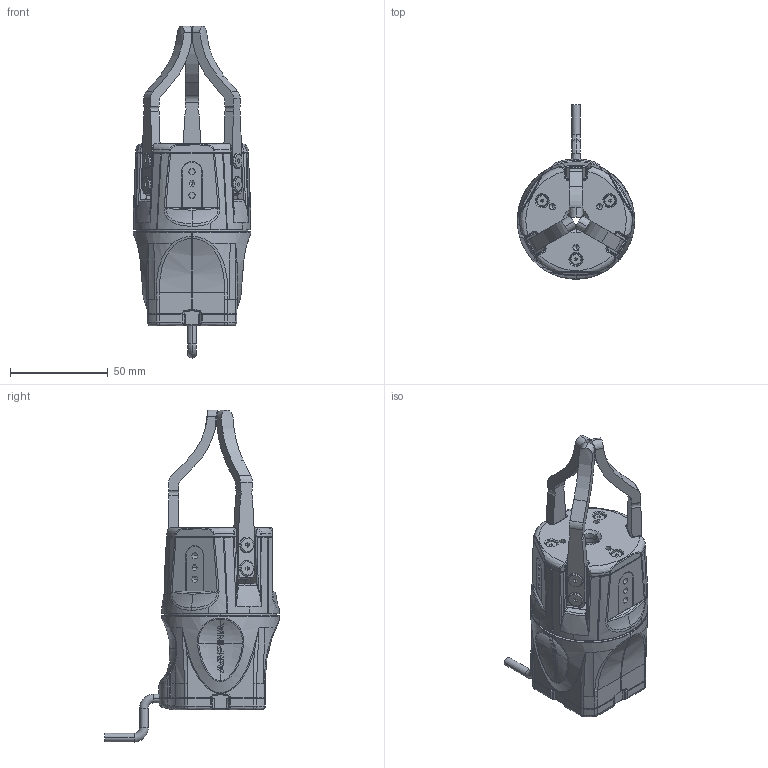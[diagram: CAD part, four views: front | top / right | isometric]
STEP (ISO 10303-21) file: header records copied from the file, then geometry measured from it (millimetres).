
FILE_DESCRIPTION (( 'STEP AP214' ), '1' );
FILE_NAME ('close1.STEP', '2021-01-15T02:38:22', ( '' ), ( '' ), 'SwSTEP 2.0', 'SolidWorks 2018', '' );
FILE_SCHEMA (( 'AUTOMOTIVE_DESIGN' ));
Length unit declared in the file: millimetre
Products named in the file (1): close1
Bounding box: 60.08 x 89.3 x 169.9 mm (x, y, z)
Volume: 211151.1 mm3; surface area: 69808.8 mm2
Topology: 1 solids, 77 shells, 4158 faces, 11700 edges, 7533 vertices
Faces by surface type: plane 1582, bspline 1172, cylinder 1076, cone 164, torus 82, sphere 82
Entity records: 262033 total; most frequent: CARTESIAN_POINT 148429, ORIENTED_EDGE 23074, DIRECTION 14555, EDGE_CURVE 11537, VERTEX_POINT 7533, AXIS2_PLACEMENT_3D 5150, B_SPLINE_CURVE_WITH_KNOTS 4401, EDGE_LOOP 4272
